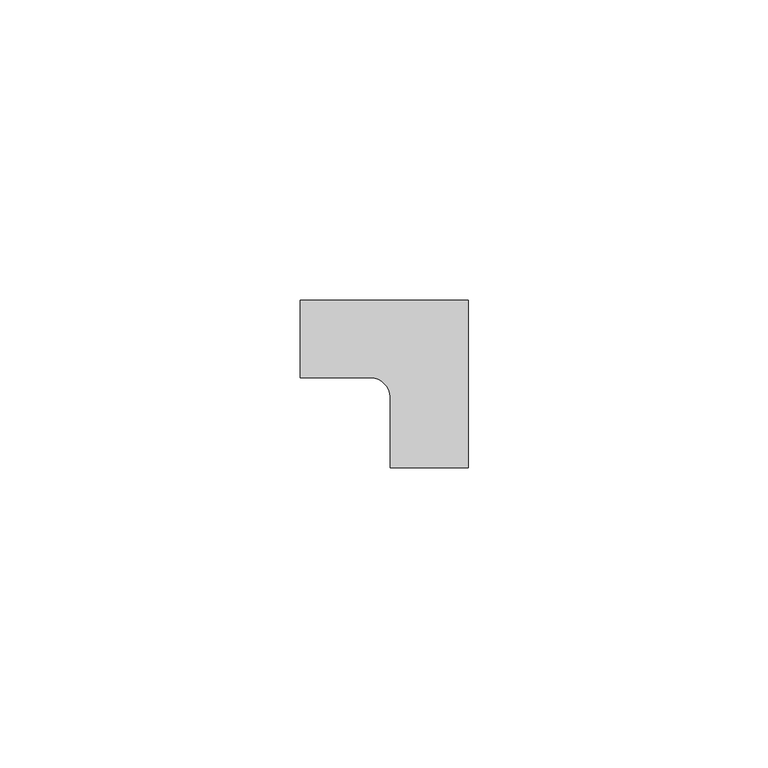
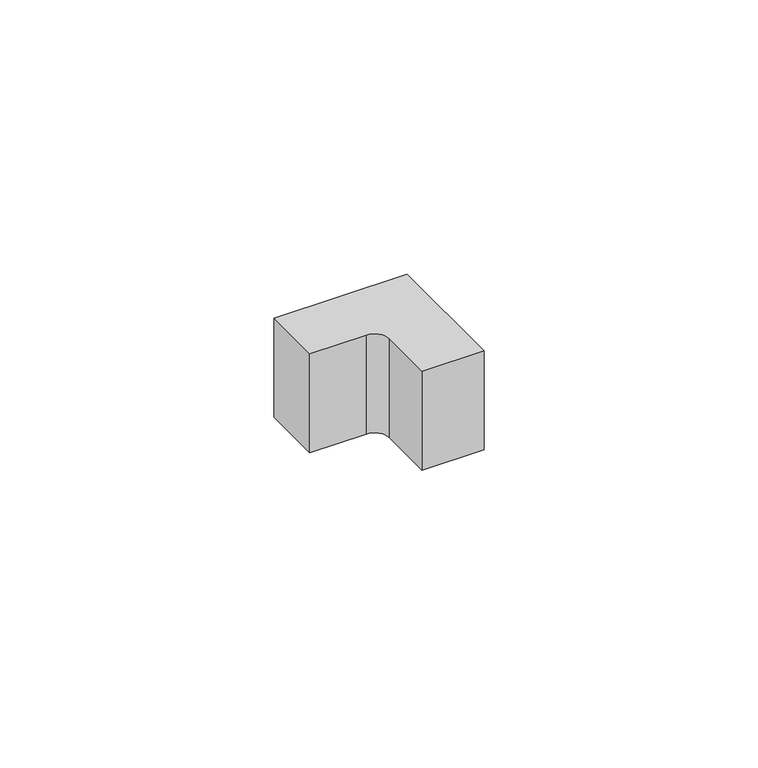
"""IFC4 building model written with IfcOpenShell, lengths in millimetres: proxy geometry, Внутренний_угол_КМВ : Внутренний угол КМВ 20х10."""

from ifc_helpers import new_model, si_unit, point, frame_2d, origin, origin_with_axes, place, context, project, spatial, polyline, circle_curve, trimmed, segment, composite_curve, outline, extrude, source, transform, mapped, element, save


def generic_models_85db04b4(model_context):
    return source(origin(), model_context, "Body", "SweptSolid", [
        extrude(outline(composite_curve([segment(polyline([(-15.0, 0.0), (-15.0, 12.9885299), (13.0, 12.9885299), (13.0, -15.0), (0.0, -15.0), (0.0, -3.184906)]), True, "CONTINUOUS"), segment(trimmed(circle_curve(frame_2d((-3.184906, -3.184906)), 3.184906), [point((0.0, -3.184906))], [point((-3.184906, 0.0))], True, "CARTESIAN"), True, "CONTINUOUS"), segment(polyline([(-3.184906, 0.0), (-15.0, 0.0)]), True, "CONTINUOUS")], self_intersect=False)), origin_with_axes(), (0.0, 0.0, 1.0), 22.0303508),
    ])


if __name__ == "__main__":
    model = new_model("IFC4")
    model_context = context("Model", 3, world=origin())
    ifc_project = project(units=[si_unit("LENGTHUNIT", "METRE", prefix="MILLI")], contexts=[model_context])
    site = spatial("IfcSite", under=ifc_project)
    building = spatial("IfcBuilding", under=site)
    placement = place(None, origin())
    generic_models_shape = generic_models_85db04b4(model_context)
    element("IfcBuildingElementProxy", 1, Name="Внутренний_угол_КМВ : Внутренний угол КМВ 20х10", ObjectType="Внутренний_угол_КМВ : Внутренний угол КМВ 20х10", at=placement, inside=building, context=model_context, shape_type="MappedRepresentation", body=[
        mapped(generic_models_shape, transform((0.0, 0.0, 0.0), x_axis=(1.0, 0.0, 0.0), y_axis=(0.0, 1.0, 0.0), z_axis=(0.0, 0.0, 1.0))),
    ])
    save(model, "model.ifc")
